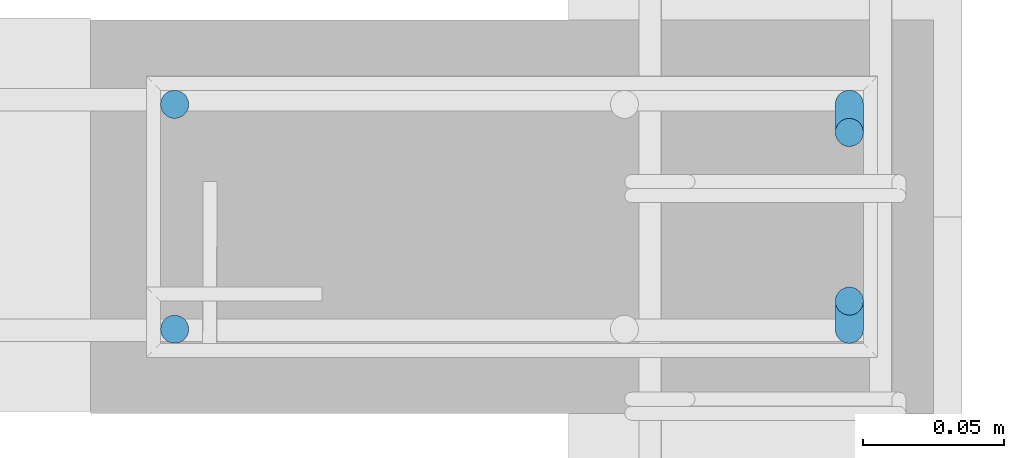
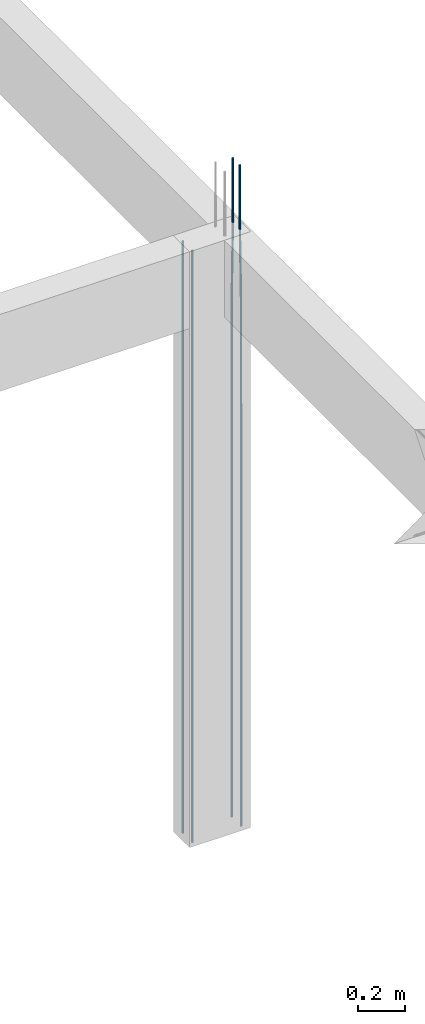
# One storey, part 129 of 236: 4 reinforcing bars.
"""IFC4 building model written with IfcOpenShell, lengths in centimetres."""

from ifc_helpers import new_model, entity, si_unit, derived_unit, frame, origin_with_axes, place, context, project, spatial, element, save


model = new_model("IFC4")

# Units and contexts
model_context = context("Model", 3, precision=1e-05, world=origin_with_axes(), identifier="Body")
ifc_project = project(units=[si_unit("LENGTHUNIT", "METRE", prefix="CENTI"), si_unit("VOLUMEUNIT", "CUBIC_METRE"), si_unit("AREAUNIT", "SQUARE_METRE"), si_unit("POWERUNIT", "WATT"), si_unit("LUMINOUSFLUXUNIT", "LUMEN"), si_unit("ELECTRICCURRENTUNIT", "AMPERE"), si_unit("PRESSUREUNIT", "PASCAL", prefix="KILO"), si_unit("MASSUNIT", "GRAM", prefix="KILO"), si_unit("PLANEANGLEUNIT", "RADIAN"), derived_unit("VOLUMETRICFLOWRATEUNIT", [(si_unit("LENGTHUNIT", "METRE"), 3), (si_unit("TIMEUNIT", "SECOND"), -1)])], contexts=[model_context])

# Site, building, storey
site_placement = place(None, frame((-4000.0, 0.0, 0.0), z_axis=(0.0, 0.0, 1.0), x_axis=(1.0, 0.0, 0.0)))
site = spatial("IfcSite", under=ifc_project, at=site_placement, Name="PADRÃO")
building_placement = place(site_placement, frame((0.0, 0.0, -14.0)))
building = spatial("IfcBuilding", under=site, at=building_placement, Name="CRECHE PRÉ-ESCOLA TIPO 2")
placement_1 = place(building_placement, origin_with_axes())
placement_2 = place(placement_1, frame((0.0, 0.0, 30.0), z_axis=(0.0, 0.0, 1.0), x_axis=(1.0, 0.0, 0.0)))
storey_placement = place(placement_2, frame((0.0, 0.0, 310.0), z_axis=(0.0, 0.0, 1.0), x_axis=(1.0, 0.0, 0.0)))
storey = spatial("IfcBuildingStorey", under=building, at=storey_placement, Name="TERREO", CompositionType="ELEMENT", Elevation=326.0)

# Reinforcing bars
reinforcing_bar_1_placement = place(storey_placement, frame((1388.84, 3664.0, 33.3573001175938), z_axis=(0.0, 0.0, 1.0), x_axis=(1.0, 0.0, 0.0)))
element("IfcReinforcingBar", 1, at=reinforcing_bar_1_placement, inside=storey, Name="P33 - Longitudinal", BarLength=0.0, CrossSectionArea=7.853981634e-05, NominalDiameter=1.0, PredefinedType="MAIN", context=model_context, shape_type="AdvancedSweptSolid", body=[
    entity("IfcSweptDiskSolid", entity("IfcCompositeCurve", [entity("IfcCompositeCurveSegment", "CONTINUOUS", True, entity("IfcPolyline", [entity("IfcCartesianPoint", [0.0, -0.5, -343.357300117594]), entity("IfcCartesianPoint", [0.0, -0.5, -73.3573001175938])])), entity("IfcCompositeCurveSegment", "CONTINUOUS", True, entity("IfcPolyline", [entity("IfcCartesianPoint", [0.0, -0.5, -73.3573001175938]), entity("IfcCartesianPoint", [0.0, 0.5, -33.3573001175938])])), entity("IfcCompositeCurveSegment", "CONTINUOUS", True, entity("IfcPolyline", [entity("IfcCartesianPoint", [0.0, 0.5, -33.3573001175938]), entity("IfcCartesianPoint", [0.0, 0.5, 0.0])]))], False), 0.5),
])
reinforcing_bar_2_placement = place(storey_placement, frame((1388.84, 3671.0, 33.3573001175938), z_axis=(0.0, 0.0, 1.0), x_axis=(1.0, 0.0, 0.0)))
element("IfcReinforcingBar", 2, at=reinforcing_bar_2_placement, inside=storey, Name="P33 - Longitudinal", BarLength=0.0, CrossSectionArea=7.853981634e-05, NominalDiameter=1.0, PredefinedType="MAIN", context=model_context, shape_type="AdvancedSweptSolid", body=[
    entity("IfcSweptDiskSolid", entity("IfcCompositeCurve", [entity("IfcCompositeCurveSegment", "CONTINUOUS", True, entity("IfcPolyline", [entity("IfcCartesianPoint", [0.0, 0.5, -343.357300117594]), entity("IfcCartesianPoint", [0.0, 0.5, -73.3573001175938])])), entity("IfcCompositeCurveSegment", "CONTINUOUS", True, entity("IfcPolyline", [entity("IfcCartesianPoint", [0.0, 0.5, -73.3573001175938]), entity("IfcCartesianPoint", [0.0, -0.5, -33.3573001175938])])), entity("IfcCompositeCurveSegment", "CONTINUOUS", True, entity("IfcPolyline", [entity("IfcCartesianPoint", [0.0, -0.5, -33.3573001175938]), entity("IfcCartesianPoint", [0.0, -0.5, 0.0])]))], False), 0.5),
])
for number, where, z_axis, x_axis, name in (
    (3, (1364.84, 3671.5, -2.0), (0.0, 0.0, 1.0), (1.0, 0.0, 0.0), "P33 - Longitudinal"),
    (4, (1364.84, 3663.5, -2.0), (0.0, 0.0, 1.0), (1.0, 0.0, 0.0), "P33 - Longitudinal"),
):
    element("IfcReinforcingBar", number, at=place(storey_placement, frame(where, z_axis=z_axis, x_axis=x_axis)), inside=storey, Name=name, BarLength=0.0, CrossSectionArea=7.853981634e-05, NominalDiameter=1.0, PredefinedType="MAIN", context=model_context, shape_type="AdvancedSweptSolid", body=[
        entity("IfcSweptDiskSolid", entity("IfcCompositeCurve", [entity("IfcCompositeCurveSegment", "CONTINUOUS", True, entity("IfcPolyline", [entity("IfcCartesianPoint", [0.0, 0.0, -308.0]), entity("IfcCartesianPoint", [0.0, 0.0, 0.0])]))], False), 0.5),
    ])

save(model, "model.ifc")
